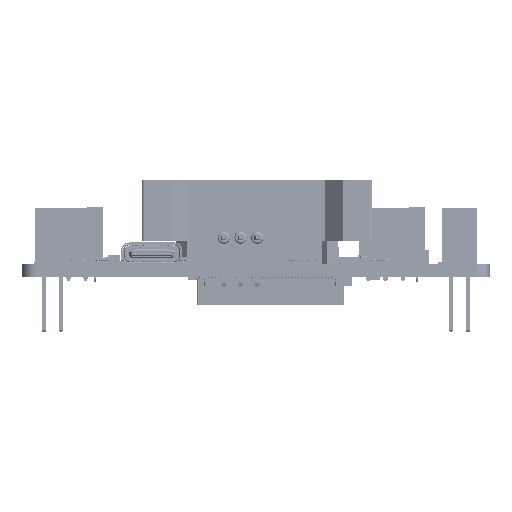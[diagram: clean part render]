
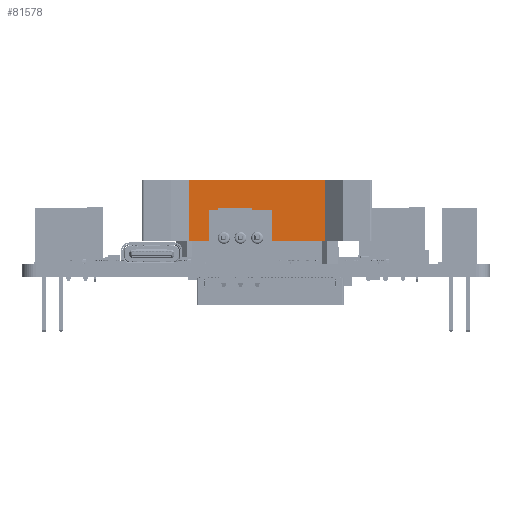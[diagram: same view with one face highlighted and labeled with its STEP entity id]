
A CAD part, front view. The second image highlights one B-rep face of the part: STEP entity #81578.
In plain terms, the highlighted planar face has unit normal (0, -1, 0).
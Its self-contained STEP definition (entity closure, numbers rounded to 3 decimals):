
#81480 = EDGE_CURVE('',#81481,#81483,#81485,.T.);
#81481 = VERTEX_POINT('',#81482);
#81482 = CARTESIAN_POINT('',(10.15,-2.025,0.));
#81483 = VERTEX_POINT('',#81484);
#81484 = CARTESIAN_POINT('',(10.15,-2.025,9.1));
#81485 = LINE('',#81486,#81487);
#81486 = CARTESIAN_POINT('',(10.15,-2.025,0.));
#81487 = VECTOR('',#81488,1.);
#81488 = DIRECTION('',(0.,0.,1.));
#81553 = VERTEX_POINT('',#81554);
#81554 = CARTESIAN_POINT('',(-10.15,-2.025,9.1));
#81560 = EDGE_CURVE('',#81561,#81553,#81563,.T.);
#81561 = VERTEX_POINT('',#81562);
#81562 = CARTESIAN_POINT('',(-10.15,-2.025,0.));
#81563 = LINE('',#81564,#81565);
#81564 = CARTESIAN_POINT('',(-10.15,-2.025,0.));
#81565 = VECTOR('',#81566,1.);
#81566 = DIRECTION('',(0.,0.,1.));
#81578 = ADVANCED_FACE('',(#81579),#81595,.F.);
#81579 = FACE_BOUND('',#81580,.F.);
#81580 = EDGE_LOOP('',(#81581,#81582,#81588,#81589));
#81581 = ORIENTED_EDGE('',*,*,#81560,.T.);
#81582 = ORIENTED_EDGE('',*,*,#81583,.T.);
#81583 = EDGE_CURVE('',#81553,#81483,#81584,.T.);
#81584 = LINE('',#81585,#81586);
#81585 = CARTESIAN_POINT('',(-10.15,-2.025,9.1));
#81586 = VECTOR('',#81587,1.);
#81587 = DIRECTION('',(1.,0.,0.));
#81588 = ORIENTED_EDGE('',*,*,#81480,.F.);
#81589 = ORIENTED_EDGE('',*,*,#81590,.F.);
#81590 = EDGE_CURVE('',#81561,#81481,#81591,.T.);
#81591 = LINE('',#81592,#81593);
#81592 = CARTESIAN_POINT('',(-10.15,-2.025,0.));
#81593 = VECTOR('',#81594,1.);
#81594 = DIRECTION('',(1.,0.,0.));
#81595 = PLANE('',#81596);
#81596 = AXIS2_PLACEMENT_3D('',#81597,#81598,#81599);
#81597 = CARTESIAN_POINT('',(-10.15,-2.025,0.));
#81598 = DIRECTION('',(0.,1.,0.));
#81599 = DIRECTION('',(1.,0.,0.));
